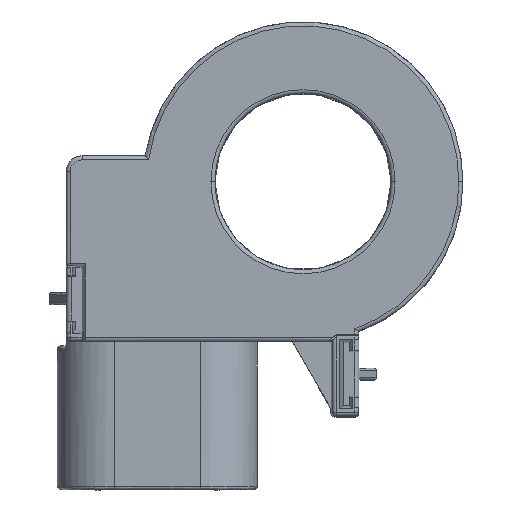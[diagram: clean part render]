
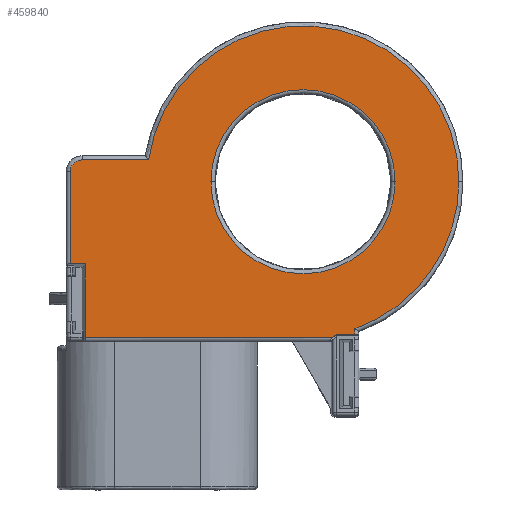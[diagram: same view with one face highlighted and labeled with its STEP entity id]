
A CAD part, top view. The second image highlights one B-rep face of the part: STEP entity #459840.
In plain terms, the highlighted planar face has unit normal (0, 0, 1).
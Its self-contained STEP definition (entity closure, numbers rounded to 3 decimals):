
#53150=CARTESIAN_POINT('',(-19.797,-19.043,1.5));
#53160=DIRECTION('',(-1.,0.,0.));
#53170=VECTOR('',#53160,1.);
#53180=LINE('',#53150,#53170);
#53190=CARTESIAN_POINT('',(6.491,-19.043,1.5));
#53200=VERTEX_POINT('',#53190);
#53210=CARTESIAN_POINT('',(4.149,-19.043,1.5));
#53220=VERTEX_POINT('',#53210);
#53230=EDGE_CURVE('',#53200,#53220,#53180,.T.);
#371070=CARTESIAN_POINT('',(-29.091,1.25,
1.5));
#371080=VERTEX_POINT('',#371070);
#371250=CARTESIAN_POINT('',(-27.6,2.741,1.5));
#371260=VERTEX_POINT('',#371250);
#371290=CARTESIAN_POINT('',(-27.6,1.25,1.5));
#371300=DIRECTION('',(0.,0.,-1.));
#371310=DIRECTION('',(-1.,0.,0.));
#371320=AXIS2_PLACEMENT_3D('',#371290,#371300,#371310);
#371330=CIRCLE('',#371320,1.491);
#371340=EDGE_CURVE('',#371080,#371260,#371330,.T.);
#409950=CARTESIAN_POINT('',(6.491,-18.379,
1.5));
#409960=VERTEX_POINT('',#409950);
#410010=CARTESIAN_POINT('',(0.,0.,
1.5));
#410020=DIRECTION('',(0.,0.,-1.));
#410030=DIRECTION('',(-1.,0.,0.));
#410040=AXIS2_PLACEMENT_3D('',#410010,#410020,#410030);
#410050=CIRCLE('',#410040,19.491);
#410060=CARTESIAN_POINT('',(19.491,0.,
1.5));
#410070=VERTEX_POINT('',#410060);
#410080=EDGE_CURVE('',#410070,#409960,#410050,.T.);
#414790=CARTESIAN_POINT('',(-27.21,3.131,1.5));
#414800=DIRECTION('',(0.,-1.,0.));
#414810=VECTOR('',#414800,1.);
#414820=LINE('',#414790,#414810);
#414830=CARTESIAN_POINT('',(-27.21,-10.261,1.5));
#414840=VERTEX_POINT('',#414830);
#414850=CARTESIAN_POINT('',(-27.21,-19.491,1.5));
#414860=VERTEX_POINT('',#414850);
#414870=EDGE_CURVE('',#414840,#414860,#414820,.T.);
#457370=CARTESIAN_POINT('',(-29.091,-10.261,1.5));
#457380=VERTEX_POINT('',#457370);
#457430=CARTESIAN_POINT('',(-19.797,-10.261,1.5));
#457440=DIRECTION('',(-1.,0.,0.));
#457450=VECTOR('',#457440,1.);
#457460=LINE('',#457430,#457450);
#457470=EDGE_CURVE('',#414840,#457380,#457460,.T.);
#458110=CARTESIAN_POINT('',(3.701,-19.491,1.5));
#458120=VERTEX_POINT('',#458110);
#458150=CARTESIAN_POINT('',(-19.797,-42.99,1.5));
#458160=DIRECTION('',(0.707,0.707,0.));
#458170=VECTOR('',#458160,1.);
#458180=LINE('',#458150,#458170);
#458190=EDGE_CURVE('',#458120,#53220,#458180,.T.);
#459140=CARTESIAN_POINT('',(11.509,0.,
1.5));
#459150=VERTEX_POINT('',#459140);
#459180=CARTESIAN_POINT('',(0.,0.,
1.5));
#459190=DIRECTION('',(0.,0.,1.));
#459200=DIRECTION('',(1.,0.,0.));
#459210=AXIS2_PLACEMENT_3D('',#459180,#459190,#459200);
#459220=CIRCLE('',#459210,11.509);
#459230=CARTESIAN_POINT('',(-11.509,0.,
1.5));
#459240=VERTEX_POINT('',#459230);
#459250=EDGE_CURVE('',#459240,#459150,#459220,.T.);
#459380=CARTESIAN_POINT('',(3.247,-19.917,1.5));
#459390=DIRECTION('',(0.,0.,1.));
#459400=DIRECTION('',(1.,0.,0.));
#459410=AXIS2_PLACEMENT_3D('',#459380,#459390,#459400);
#459420=PLANE('',#459410);
#459430=ORIENTED_EDGE('',*,*,#53230,.F.);
#459440=ORIENTED_EDGE('',*,*,#458190,.T.);
#459450=CARTESIAN_POINT('',(-19.797,-19.491,1.5));
#459460=DIRECTION('',(-1.,0.,0.));
#459470=VECTOR('',#459460,1.);
#459480=LINE('',#459450,#459470);
#459490=EDGE_CURVE('',#458120,#414860,#459480,.T.);
#459500=ORIENTED_EDGE('',*,*,#459490,.F.);
#459510=ORIENTED_EDGE('',*,*,#414870,.T.);
#459520=ORIENTED_EDGE('',*,*,#457470,.F.);
#459530=CARTESIAN_POINT('',(-29.091,3.131,1.5));
#459540=DIRECTION('',(0.,-1.,0.));
#459550=VECTOR('',#459540,1.);
#459560=LINE('',#459530,#459550);
#459570=EDGE_CURVE('',#371080,#457380,#459560,.T.);
#459580=ORIENTED_EDGE('',*,*,#459570,.T.);
#459590=ORIENTED_EDGE('',*,*,#371340,.F.);
#459600=CARTESIAN_POINT('',(-19.797,2.741,1.5));
#459610=DIRECTION('',(-1.,0.,0.));
#459620=VECTOR('',#459610,1.);
#459630=LINE('',#459600,#459620);
#459640=CARTESIAN_POINT('',(-19.297,2.741,
1.5));
#459650=VERTEX_POINT('',#459640);
#459660=EDGE_CURVE('',#459650,#371260,#459630,.T.);
#459670=ORIENTED_EDGE('',*,*,#459660,.T.);
#459680=EDGE_CURVE('',#459650,#410070,#410050,.T.);
#459690=ORIENTED_EDGE('',*,*,#459680,.F.);
#459700=ORIENTED_EDGE('',*,*,#410080,.F.);
#459710=CARTESIAN_POINT('',(6.491,3.131,1.5));
#459720=DIRECTION('',(0.,-1.,0.));
#459730=VECTOR('',#459720,1.);
#459740=LINE('',#459710,#459730);
#459750=EDGE_CURVE('',#409960,#53200,#459740,.T.);
#459760=ORIENTED_EDGE('',*,*,#459750,.F.);
#459770=EDGE_LOOP('',(#459760,#459700,#459690,#459670,#459590,#459580,
#459520,#459510,#459500,#459440,#459430));
#459780=FACE_OUTER_BOUND('',#459770,.T.);
#459790=ORIENTED_EDGE('',*,*,#459250,.F.);
#459800=EDGE_CURVE('',#459150,#459240,#459220,.T.);
#459810=ORIENTED_EDGE('',*,*,#459800,.F.);
#459820=EDGE_LOOP('',(#459810,#459790));
#459830=FACE_BOUND('',#459820,.T.);
#459840=ADVANCED_FACE('',(#459780,#459830),#459420,.T.);
